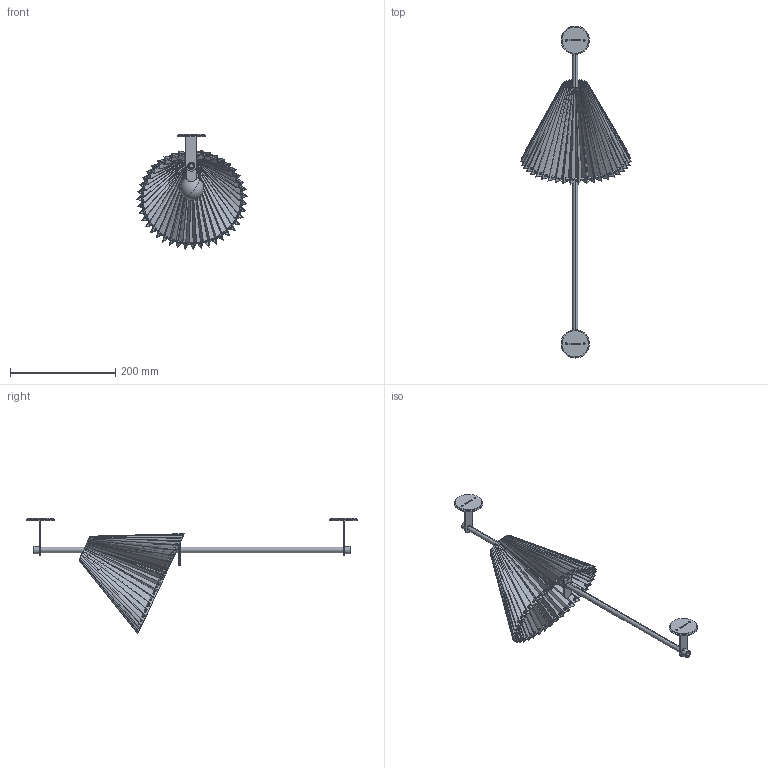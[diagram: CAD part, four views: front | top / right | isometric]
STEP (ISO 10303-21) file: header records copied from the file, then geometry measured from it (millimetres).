
FILE_DESCRIPTION (( 'STEP AP203' ), '1' );
FILE_NAME ('Coquete Aplic Web.STEP', '2025-10-15T12:48:35', ( '' ), ( '' ), 'SwSTEP 2.0', 'SolidWorks 2013', '' );
FILE_SCHEMA (( 'CONFIG_CONTROL_DESIGN' ));
Length unit declared in the file: millimetre
Products named in the file (12): ME020_Tija Ø10x600mm; ME022_Tap Ø14x10 M10; ME025_Disc embellidor Ø54x1; Conjunt Pantalla Web; Bombeta LED Ø45; Coquete Aplic Web; ME024.1_Chapa 2mm GUIA (FORATS PETITS); Chapa base + Aro Ø190; Tapa 3D iman 25x23x4mm; Pantalla; Portalampades 26,5x56mm; ME026_Chapa 2mm SUPORT APLIC Ø50
Assembly tree (14 placements, depth 3):
  Coquete Aplic Web
    ME020_Tija Ø10x600mm
    ME022_Tap Ø14x10 M10  x2
    ME026_Chapa 2mm SUPORT APLIC Ø50  x2
    ME025_Disc embellidor Ø54x1  x2
    Conjunt Pantalla Web
      Chapa base + Aro Ø190
      ME024.1_Chapa 2mm GUIA (FORATS PETITS)
      Pantalla
      Tapa 3D iman 25x23x4mm
      Portalampades 26,5x56mm
      Bombeta LED Ø45
Bounding box: 209.8 x 632 x 219.26 mm (x, y, z)
Volume: 242088.3 mm3; surface area: 446486.4 mm2
Topology: 17 solids, 17 shells, 557 faces, 1510 edges, 987 vertices
Faces by surface type: torus 182, bspline 172, cylinder 94, plane 91, cone 12, sphere 6
Entity records: 28770 total; most frequent: CARTESIAN_POINT 14960, ORIENTED_EDGE 2784, DIRECTION 2108, EDGE_CURVE 1392, VERTEX_POINT 914, EDGE_LOOP 716, AXIS2_PLACEMENT_3D 704, LINE 700
